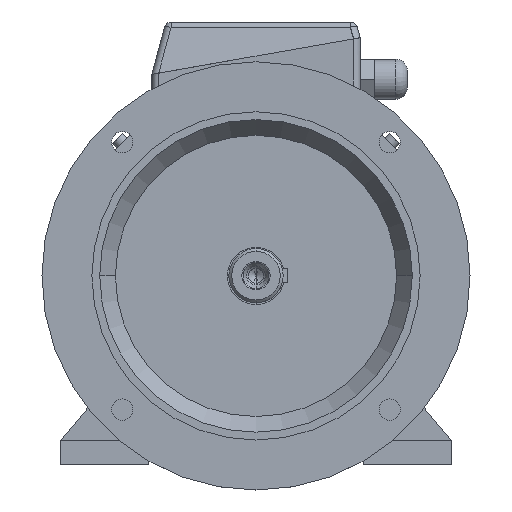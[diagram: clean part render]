
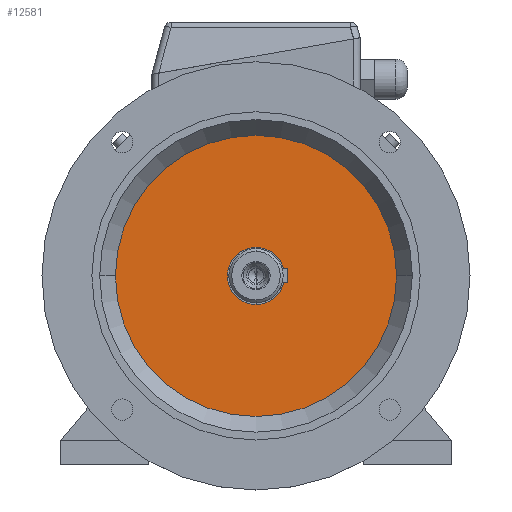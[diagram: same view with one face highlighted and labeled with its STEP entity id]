
A CAD part, top view. The second image highlights one B-rep face of the part: STEP entity #12581.
In plain terms, the highlighted planar face has unit normal (0, 0, 1).
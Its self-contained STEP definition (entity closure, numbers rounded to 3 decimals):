
#420 = EDGE_CURVE ( 'NONE', #11358, #11416, #11688, .T. ) ;
#7992 = ORIENTED_EDGE ( 'NONE', *, *, #420, .F. ) ;
#8231 = CARTESIAN_POINT ( 'NONE',  ( -98.5, 0., 47. ) ) ;
#8366 = CARTESIAN_POINT ( 'NONE',  ( 98.5, 0., 47. ) ) ;
#8465 = CIRCLE ( 'NONE', #8466, 98.5 ) ;
#8466 = AXIS2_PLACEMENT_3D ( 'NONE', #8467, #8468, #8472 ) ;
#8467 = CARTESIAN_POINT ( 'NONE',  ( 0., 0., 47. ) ) ;
#8468 = DIRECTION ( 'NONE',  ( 0., 0., -1. ) ) ;
#8472 = DIRECTION ( 'NONE',  ( -1., 0., 0. ) ) ;
#8531 = ORIENTED_EDGE ( 'NONE', *, *, #11464, .F. ) ;
#9088 = FACE_OUTER_BOUND ( 'NONE', #12305, .T. ) ;
#9090 = PLANE ( 'NONE',  #9091 ) ;
#9091 = AXIS2_PLACEMENT_3D ( 'NONE', #9092, #9093, #9094 ) ;
#9092 = CARTESIAN_POINT ( 'NONE',  ( 0., 98.5, 47. ) ) ;
#9093 = DIRECTION ( 'NONE',  ( 0., 0., 1. ) ) ;
#9094 = DIRECTION ( 'NONE',  ( 1., 0., 0. ) ) ;
#11358 = VERTEX_POINT ( 'NONE', #8231 ) ;
#11416 = VERTEX_POINT ( 'NONE', #8366 ) ;
#11464 = EDGE_CURVE ( 'NONE', #11416, #11358, #8465, .T. ) ;
#11688 = CIRCLE ( 'NONE', #11689, 98.5 ) ;
#11689 = AXIS2_PLACEMENT_3D ( 'NONE', #11690, #11691, #11692 ) ;
#11690 = CARTESIAN_POINT ( 'NONE',  ( 0., 0., 47. ) ) ;
#11691 = DIRECTION ( 'NONE',  ( 0., 0., -1. ) ) ;
#11692 = DIRECTION ( 'NONE',  ( -1., 0., 0. ) ) ;
#12305 = EDGE_LOOP ( 'NONE', ( #8531, #7992 ) ) ;
#12581 = ADVANCED_FACE ( 'NONE', ( #9088 ), #9090, .T. ) ;
